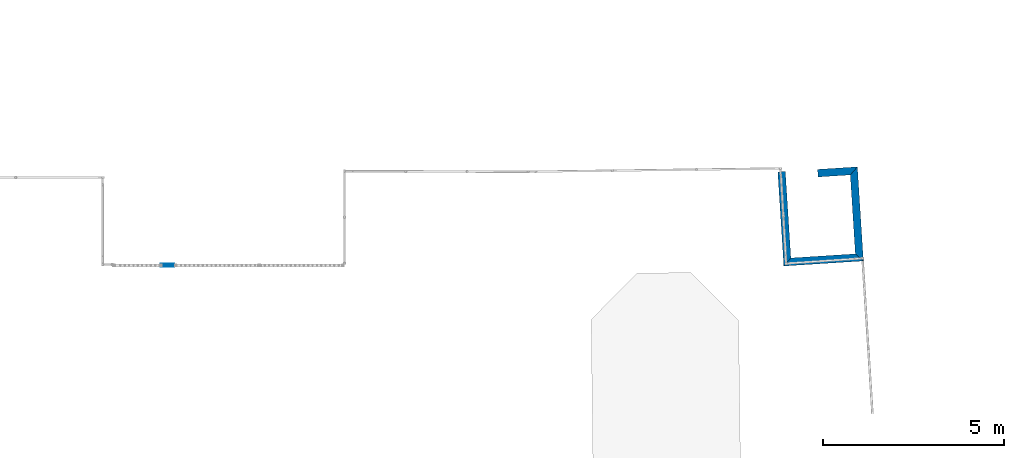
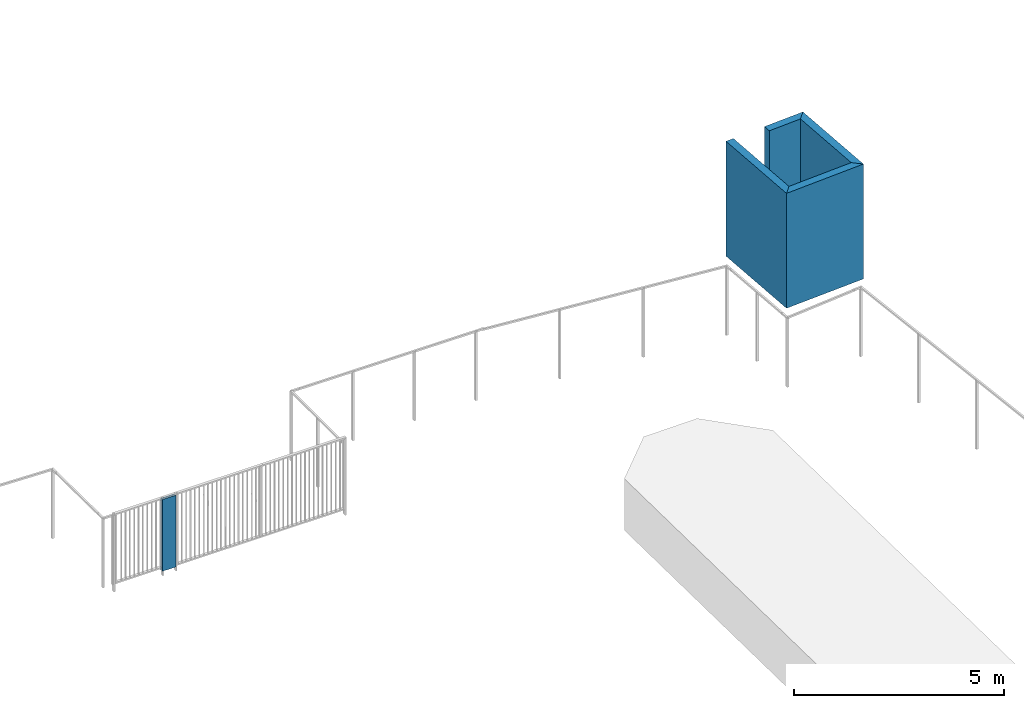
# One storey, part 31 of 91: 6 walls.
"""IFC2X3 building model written with IfcOpenShell, lengths in metres."""

from ifc_helpers import new_model, entity, si_unit, converted_unit, derived_unit, money_unit, direction, frame, origin_with_axes, place, context, subcontext, project, spatial, polyline, outline, extrude, material, layer, layer_set, layer_usage, type_object, element, save


model = new_model("IFC2X3")

# Units and contexts
model_context = context("Model", 3, precision=1e-05, world=origin_with_axes(), true_north=direction((0.0, 1.0)))
body_context = subcontext(model_context, "Body", "Model", "MODEL_VIEW")
ifc_project = project(units=[si_unit("LENGTHUNIT", "METRE"), si_unit("AREAUNIT", "SQUARE_METRE"), si_unit("VOLUMEUNIT", "CUBIC_METRE"), converted_unit("PLANEANGLEUNIT", "DEGREE", entity("IfcPlaneAngleMeasure", 0.0174532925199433), si_unit("PLANEANGLEUNIT", "RADIAN"), dimensions=[0, 0, 0, 0, 0, 0, 0]), money_unit("EUR"), converted_unit("TIMEUNIT", "Year", entity("IfcTimeMeasure", 31557600.0), si_unit("TIMEUNIT", "SECOND"), dimensions=[0, 0, 1, 0, 0, 0, 0]), si_unit("MASSUNIT", "GRAM", prefix="KILO"), si_unit("THERMODYNAMICTEMPERATUREUNIT", "DEGREE_CELSIUS"), si_unit("LUMINOUSINTENSITYUNIT", "LUMEN"), si_unit("ENERGYUNIT", "JOULE", prefix="MEGA"), derived_unit("THERMALCONDUCTANCEUNIT", [(si_unit("POWERUNIT", "WATT"), 1), (si_unit("LENGTHUNIT", "METRE"), -1), (si_unit("THERMODYNAMICTEMPERATUREUNIT", "KELVIN"), -1)]), derived_unit("SPECIFICHEATCAPACITYUNIT", [(si_unit("ENERGYUNIT", "JOULE"), 1), (si_unit("MASSUNIT", "GRAM", prefix="KILO"), -1), (si_unit("THERMODYNAMICTEMPERATUREUNIT", "KELVIN"), -1)]), derived_unit("MASSDENSITYUNIT", [(si_unit("MASSUNIT", "GRAM", prefix="KILO"), 1), (si_unit("VOLUMEUNIT", "CUBIC_METRE"), -1)])], contexts=[model_context])

# Site, building, storey
site_placement = place(None, origin_with_axes())
site = spatial("IfcSite", under=ifc_project, at=site_placement, Name="Site", CompositionType="ELEMENT")
building_placement = place(site_placement, origin_with_axes())
building = spatial("IfcBuilding", under=site, at=building_placement, Name="Bâtiment", CompositionType="ELEMENT")
storey_placement = place(building_placement, origin_with_axes())
storey = spatial("IfcBuildingStorey", under=building, at=storey_placement, Name="RDC", CompositionType="ELEMENT", Elevation=0.0)

# Walls
ifc_material_1 = material(Name="Finition int - Enduit plâtre")
ifc_layer_1 = layer(ifc_material_1, 0.015, ventilated="UNKNOWN")
ifc_material_2 = material(Name="Struct. - B.A. banché")
ifc_layer_2 = layer(ifc_material_2, 0.18, ventilated="UNKNOWN")
ifc_layer_3 = layer(ifc_material_1, 0.015, ventilated="UNKNOWN")
ifc_layer_set_1 = layer_set([ifc_layer_1, ifc_layer_2, ifc_layer_3], Name="3.0-Refend: béton + enduit plâtre 2 faces")
ifc_layer_usage_1 = layer_usage(ifc_layer_set_1, "AXIS2", "NEGATIVE", 0.0)
wall_type_1 = type_object("IfcWallType", Name="3.0-Refend: béton + enduit plâtre 2 faces 210", PredefinedType="NOTDEFINED")
wall_1_placement = place(storey_placement, frame((101.7141291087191, 4.888019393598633, 0.0), z_axis=(0.0, 0.0, 1.0), x_axis=(-0.06375319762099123, 0.9979656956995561, 0.0)))
element("IfcWallStandardCase", 1, at=wall_1_placement, inside=storey, type_object=wall_type_1, material=ifc_layer_usage_1, Name="Cloisons ép. 74mm", context=body_context, shape_type="SweptSolid", body=[
    extrude(outline(polyline([(-0.2099999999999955, -0.2099999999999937), (2.389999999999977, -0.2099999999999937), (2.179999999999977, 0.0), (0.0, 0.0), (-0.2099999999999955, -0.2099999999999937)])), origin_with_axes(), (0.0, 0.0, 1.0), 3.34),
])
ifc_layer_usage_2 = layer_usage(ifc_layer_set_1, "AXIS2", "NEGATIVE", 0.0)
wall_2_placement = place(storey_placement, frame((99.93775017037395, 4.774538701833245, 0.0), z_axis=(0.0, 0.0, 1.0), x_axis=(0.9979656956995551, 0.06375319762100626, 0.0)))
element("IfcWallStandardCase", 2, at=wall_2_placement, inside=storey, type_object=wall_type_1, material=ifc_layer_usage_2, Name="Cloisons ép. 73mm", context=body_context, shape_type="SweptSolid", body=[
    extrude(outline(polyline([(-0.2099999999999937, -0.2099999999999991), (1.989999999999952, -0.21), (1.779999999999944, 0.0), (0.0, 0.0), (-0.2099999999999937, -0.2099999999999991)])), origin_with_axes(), (0.0, 0.0, 1.0), 3.34),
])
ifc_layer_usage_3 = layer_usage(ifc_layer_set_1, "AXIS2", "NEGATIVE", 0.0)
wall_3_placement = place(storey_placement, frame((99.78538002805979, 7.159676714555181, 0.0), z_axis=(0.0, 0.0, 1.0), x_axis=(0.06375319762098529, -0.9979656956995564, 0.0)))
element("IfcWallStandardCase", 3, at=wall_3_placement, inside=storey, type_object=wall_type_1, material=ifc_layer_usage_3, Name="Cloisons ép. 72mm", context=body_context, shape_type="SweptSolid", body=[
    extrude(outline(polyline([(0.0, -0.210000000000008), (2.600000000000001, -0.2099999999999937), (2.389999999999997, 0.0), (0.0, 0.0), (0.0, -0.210000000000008)])), origin_with_axes(), (0.0, 0.0, 1.0), 3.34),
])
ifc_layer_usage_4 = layer_usage(ifc_layer_set_1, "AXIS2", "NEGATIVE", 0.0)
wall_4_placement = place(storey_placement, frame((101.5751471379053, 7.063584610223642, 0.0), z_axis=(0.0, 0.0, 1.0), x_axis=(-0.9979656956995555, -0.06375319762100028, 0.0)))
element("IfcWallStandardCase", 4, at=wall_4_placement, inside=storey, type_object=wall_type_1, material=ifc_layer_usage_4, Name="Cloisons ép. 75mm", context=body_context, shape_type="SweptSolid", body=[
    extrude(outline(polyline([(-0.210000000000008, -0.21), (0.8899999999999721, -0.21), (0.8899999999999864, 0.0), (0.0, 0.0), (-0.210000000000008, -0.21)])), origin_with_axes(), (0.0, 0.0, 1.0), 3.34),
])
ifc_material_3 = material(Name="Métal - Fer")
ifc_layer_4 = layer(ifc_material_3, 0.01, ventilated="UNKNOWN")
ifc_layer_set_2 = layer_set([ifc_layer_4], Name="Métal - Fer 0.01")
ifc_layer_usage_5 = layer_usage(ifc_layer_set_2, "AXIS2", "NEGATIVE", 0.0)
wall_type_2 = type_object("IfcWallType", Name="Métal - Fer 10", PredefinedType="NOTDEFINED")
wall_5_placement = place(storey_placement, frame((82.93745703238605, 4.532697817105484, -1.623588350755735), z_axis=(0.0, 0.0, 1.0), x_axis=(-0.9999999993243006, -3.676137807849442e-05, 0.0)))
element("IfcWallStandardCase", 5, at=wall_5_placement, inside=storey, type_object=wall_type_2, material=ifc_layer_usage_5, Name="MC_AGL_Ext-061", context=body_context, shape_type="SweptSolid", body=[
    extrude(outline(polyline([(0.0, -0.01000000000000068), (0.3717560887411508, -0.01000000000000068), (0.3717560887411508, 0.0), (0.0, 0.0), (0.0, -0.01000000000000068)])), origin_with_axes(), (0.0, 0.0, 1.0), 2.083588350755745),
])
ifc_layer_usage_6 = layer_usage(ifc_layer_set_2, "AXIS2", "POSITIVE", 0.0)
wall_6_placement = place(storey_placement, frame((82.93745703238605, 4.612711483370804, -1.623588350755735), z_axis=(0.0, 0.0, 1.0), x_axis=(-0.9999999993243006, -3.676137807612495e-05, 0.0)))
element("IfcWallStandardCase", 6, at=wall_6_placement, inside=storey, type_object=wall_type_2, material=ifc_layer_usage_6, Name="MC_AGL_Ext-061", context=body_context, shape_type="SweptSolid", body=[
    extrude(outline(polyline([(0.0, 0.0), (0.3717560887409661, 0.0), (0.3717560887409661, 0.009999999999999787), (0.0, 0.009999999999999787), (0.0, 0.0)])), origin_with_axes(), (0.0, 0.0, 1.0), 2.083588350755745),
])

save(model, "model.ifc")
